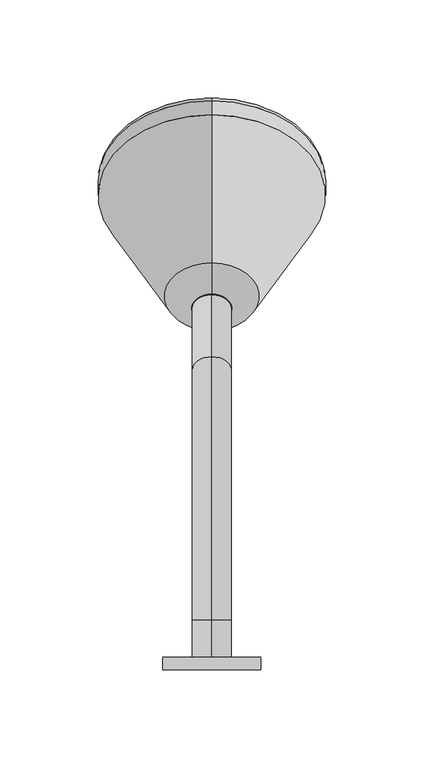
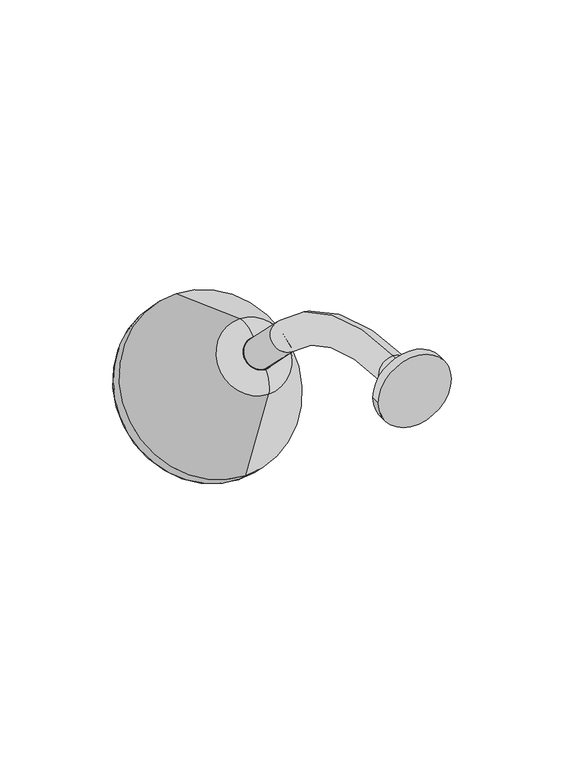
"""IFC4 building model written with IfcOpenShell, lengths in millimetres: flow terminal geometry, Regadera : Accesorios_baño."""

from ifc_helpers import new_model, si_unit, point, frame, frame_2d, origin, place, context, project, spatial, polyline, circle_curve, ellipse_curve, trimmed, segment, composite_curve, outline, extrude, source, transform, mapped, element, save
from ifc_brep_helpers import plane_surface, cylinder_surface, revolved_surface, advanced_brep


def flow_terminal_5f1bfaf6(model_context):
    return source(origin(), model_context, "Body", "SolidModel", [
        extrude(outline(composite_curve([segment(trimmed(circle_curve(frame_2d((1900.0, 125.0)), 25.0), [point((1900.0, 100.0))], [point((1900.0, 150.0))], False, "CARTESIAN"), True, "CONTINUOUS"), segment(trimmed(circle_curve(frame_2d((1900.0, 125.0)), 25.0), [point((1900.0, 150.0))], [point((1900.0, 100.0))], False, "CARTESIAN"), True, "CONTINUOUS")], self_intersect=False)), frame((0.0, 70.0, 0.0), z_axis=(0.0, 1.0, 0.0), x_axis=(0.0, 0.0, 1.0)), (0.0, 0.0, 1.0), 6.4821489),
        advanced_brep(
        [(125.0, 277.6624735, 1826.3331882), (125.0, 243.6668118, 1792.3375265), (125.0, 247.1555994, 1808.0744304), (125.0, 261.9255696, 1822.8444006), (125.0, 353.255056, 1798.8197382), (125.0, 271.1802618, 1716.744944), (125.0, 360.3261238, 1791.7486704), (125.0, 278.2513296, 1709.6738762), (125.0, 360.3261238, 1784.6776026), (125.0, 285.3223974, 1709.6738762), (125.0, 358.6229509, 1782.9744296), (125.0, 287.0255704, 1711.3770491), (125.0, 357.2087373, 1784.3886432), (125.0, 285.6113568, 1712.7912627), (125.0, 321.4100471, 1748.5899529), (125.0, 254.5405845, 1815.4594155)],
        [
            (0, 1, circle_curve(frame((125.0, 260.6646427, 1809.3353573), z_axis=(0.0, -0.7071067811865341, 0.707106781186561), x_axis=(0.0, -0.707106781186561, -0.7071067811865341)), 24.0385629)),
            (1, 2, circle_curve(frame((125.0, 257.7622012, 1797.4678286), z_axis=(-1.0000000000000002, 0.0, 0.0), x_axis=(0.0, 1.0000000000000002, 0.0)), 15.0)),
            (2, 3, circle_curve(frame((125.0, 254.5405845, 1815.4594155), z_axis=(0.0, 0.7071067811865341, -0.707106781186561), x_axis=(0.0, -0.707106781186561, -0.7071067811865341)), 10.4439461)),
            (3, 0, circle_curve(frame((125.0, 272.5321714, 1812.2377988), z_axis=(-1.0000000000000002, 0.0, 0.0), x_axis=(0.0, 0.0, -1.0000000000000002)), 15.0)),
            (1, 0, circle_curve(frame((125.0, 260.6646427, 1809.3353573), z_axis=(0.0, -0.7071067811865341, 0.707106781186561), x_axis=(0.0, -0.707106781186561, -0.7071067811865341)), 24.0385629)),
            (3, 2, circle_curve(frame((125.0, 254.5405845, 1815.4594155), z_axis=(0.0, 0.7071067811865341, -0.707106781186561), x_axis=(0.0, -0.707106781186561, -0.7071067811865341)), 10.4439461)),
            (4, 5, circle_curve(frame((125.0, 312.2176589, 1757.7823411), z_axis=(0.0, -0.7071067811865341, 0.707106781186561), x_axis=(0.0, -0.707106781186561, -0.7071067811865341)), 58.0356436)),
            (5, 1),
            (0, 4),
            (5, 4, circle_curve(frame((125.0, 312.2176589, 1757.7823411), z_axis=(0.0, -0.7071067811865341, 0.707106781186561), x_axis=(0.0, -0.707106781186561, -0.7071067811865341)), 58.0356436)),
            (6, 7, circle_curve(frame((125.0, 319.2887267, 1750.7112733), z_axis=(0.0, -0.7071067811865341, 0.707106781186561), x_axis=(0.0, -0.707106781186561, -0.7071067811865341)), 58.0356436)),
            (7, 5),
            (4, 6),
            (7, 6, circle_curve(frame((125.0, 319.2887267, 1750.7112733), z_axis=(0.0, -0.7071067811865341, 0.707106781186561), x_axis=(0.0, -0.707106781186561, -0.7071067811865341)), 58.0356436)),
            (8, 9, circle_curve(frame((125.0, 322.8242606, 1747.1757394), z_axis=(0.0, -0.7071067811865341, 0.707106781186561), x_axis=(0.0, -0.707106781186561, -0.7071067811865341)), 53.0356436)),
            (9, 7, circle_curve(frame((125.0, 281.7868635, 1713.2094101), z_axis=(-1.0000000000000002, 0.0, 0.0), x_axis=(0.0, 1.0000000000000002, 0.0)), 5.0)),
            (6, 8, circle_curve(frame((125.0, 356.7905899, 1788.2131365), z_axis=(-1.0000000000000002, 0.0, 0.0), x_axis=(0.0, 0.0, -1.0000000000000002)), 5.0)),
            (9, 8, circle_curve(frame((125.0, 322.8242606, 1747.1757394), z_axis=(0.0, -0.7071067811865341, 0.707106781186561), x_axis=(0.0, -0.707106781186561, -0.7071067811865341)), 53.0356436)),
            (10, 11, circle_curve(frame((125.0, 322.8242606, 1747.1757394), z_axis=(0.0, -0.7071067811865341, 0.707106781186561), x_axis=(0.0, -0.707106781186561, -0.7071067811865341)), 50.6269933)),
            (11, 9),
            (8, 10),
            (11, 10, circle_curve(frame((125.0, 322.8242606, 1747.1757394), z_axis=(0.0, -0.7071067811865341, 0.707106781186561), x_axis=(0.0, -0.707106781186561, -0.7071067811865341)), 50.6269933)),
            (12, 13, circle_curve(frame((125.0, 321.4100471, 1748.5899529), z_axis=(0.0, -0.7071067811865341, 0.707106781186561), x_axis=(0.0, -0.707106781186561, -0.7071067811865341)), 50.6269933)),
            (13, 11),
            (10, 12),
            (13, 12, circle_curve(frame((125.0, 321.4100471, 1748.5899529), z_axis=(0.0, -0.7071067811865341, 0.707106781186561), x_axis=(0.0, -0.707106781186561, -0.7071067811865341)), 50.6269933)),
            (14, 13),
            (12, 14),
            (2, 15),
            (15, 3),
        ],
        [
            revolved_surface(trimmed(ellipse_curve(frame((125.0, 257.7622012, 1797.4678286), z_axis=(1.0000000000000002, 0.0, 0.0), x_axis=(0.0, 1.0000000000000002, 0.0)), 15.0, 15.0), [point((125.0, 247.1555994, 1808.0744304))], [point((125.0, 243.6668118, 1792.3375265))], True, "CARTESIAN"), (125.0, 254.5405845, 1815.4594155), (0.0, 0.7071067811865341, -0.707106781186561)),
            revolved_surface(polyline([(125.0, 243.6668118, 1792.3375265), (125.0, 271.1802618, 1716.744944)]), (125.0, 254.5405845, 1815.4594155), (0.0, 0.7071067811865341, -0.707106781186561)),
            cylinder_surface(frame((125.0, 254.5405845, 1815.4594155), z_axis=(0.0, 0.7071067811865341, -0.707106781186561), x_axis=(0.0, -0.707106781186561, -0.7071067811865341)), 58.0356436),
            revolved_surface(trimmed(ellipse_curve(frame((125.0, 281.7868635, 1713.2094101), z_axis=(1.0000000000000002, 0.0, 0.0), x_axis=(0.0, 1.0000000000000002, 0.0)), 5.0, 5.0), [point((125.0, 278.2513296, 1709.6738762))], [point((125.0, 285.3223974, 1709.6738762))], True, "CARTESIAN"), (125.0, 254.5405845, 1815.4594155), (0.0, 0.7071067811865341, -0.707106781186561)),
            plane_surface(frame((125.0, 322.8242606, 1747.1757394), z_axis=(0.0, 0.7071067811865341, -0.707106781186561), x_axis=(0.0, -0.707106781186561, -0.7071067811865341))),
            revolved_surface(polyline([(125.0, 287.02557037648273, 1711.3770490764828), (125.0, 285.61135677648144, 1712.7912626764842)]), (125.0, 254.5405845, 1815.4594155), (0.0, 0.7071067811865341, -0.707106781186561)),
            plane_surface(frame((125.0, 321.4100471, 1748.5899529), z_axis=(0.0, 0.7071067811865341, -0.707106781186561), x_axis=(0.0, -0.707106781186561, -0.7071067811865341))),
            plane_surface(frame((125.0, 254.5405845, 1815.4594155), z_axis=(0.0, -0.7071067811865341, 0.707106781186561), x_axis=(0.0, -0.707106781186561, -0.7071067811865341))),
        ],
        [
            (0, [[1, 2, 3, 4]]),
            (0, [[5, -4, 6, -2]]),
            (1, [[7, 8, -1, 9]]),
            (1, [[10, -9, -5, -8]]),
            (2, [[11, 12, -7, 13]]),
            (2, [[14, -13, -10, -12]]),
            (3, [[15, 16, -11, 17]]),
            (3, [[18, -17, -14, -16]]),
            (4, [[19, 20, -15, 21]]),
            (4, [[22, -21, -18, -20]]),
            (5, [[23, 24, -19, 25]]),
            (5, [[26, -25, -22, -24]]),
            (6, [[27, -23, 28]]),
            (6, [[-28, -26, -27]]),
            (7, [[-3, 29, 30]]),
            (7, [[-6, -30, -29]]),
        ],
    ),
        advanced_brep(
        [(125.0, 76.4821489, 1890.0), (125.0, 76.4821489, 1910.0), (125.0, 95.4415588, 1890.0), (125.0, 95.4415588, 1910.0), (125.0, 229.7918472, 1854.3502884), (125.0, 215.6497116, 1840.2081528), (125.0, 247.4695167, 1808.3883476), (125.0, 261.6116524, 1822.5304833)],
        [
            (0, 1, circle_curve(frame((125.0, 76.4821489, 1900.0), z_axis=(0.0, -1.0, 0.0), x_axis=(0.0, 0.0, 1.0)), 10.0)),
            (1, 0, circle_curve(frame((125.0, 76.4821489, 1900.0), z_axis=(0.0, -1.0, 0.0), x_axis=(0.0, 0.0, 1.0)), 10.0)),
            (0, 2),
            (2, 3, circle_curve(frame((125.0, 95.4415588, 1900.0), z_axis=(0.0, -1.0, 0.0), x_axis=(0.0, 0.0, 1.0)), 10.0)),
            (3, 1),
            (3, 2, circle_curve(frame((125.0, 95.4415588, 1900.0), z_axis=(0.0, -1.0, 0.0), x_axis=(0.0, 0.0, 1.0)), 10.0)),
            (4, 3, circle_curve(frame((125.0, 95.4415588, 1720.0), z_axis=(1.0, 0.0, 0.0), x_axis=(0.0, 0.0, 1.0)), 190.0)),
            (2, 5, circle_curve(frame((125.0, 95.4415588, 1720.0), z_axis=(-1.0, 0.0, 0.0), x_axis=(0.0, 0.0, 1.0)), 170.0)),
            (5, 4, circle_curve(frame((125.0, 222.7207794, 1847.2792206), z_axis=(0.0, -0.7071067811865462, 0.7071067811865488), x_axis=(0.0, 0.7071067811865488, 0.7071067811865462)), 10.0)),
            (4, 5, circle_curve(frame((125.0, 222.7207794, 1847.2792206), z_axis=(0.0, -0.7071067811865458, 0.7071067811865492), x_axis=(0.0, 0.7071067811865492, 0.7071067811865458)), 10.0)),
            (6, 7, circle_curve(frame((125.0, 254.5405845, 1815.4594155), z_axis=(0.0, 0.7071067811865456, -0.7071067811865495), x_axis=(0.0, 0.7071067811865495, 0.7071067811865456)), 10.0)),
            (7, 6, circle_curve(frame((125.0, 254.5405845, 1815.4594155), z_axis=(0.0, 0.7071067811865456, -0.7071067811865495), x_axis=(0.0, 0.7071067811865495, 0.7071067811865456)), 10.0)),
            (5, 6),
            (7, 4),
        ],
        [
            plane_surface(frame((125.0, 76.4821489, 1900.0), z_axis=(0.0, -1.0, 0.0), x_axis=(1.0, 0.0, 0.0))),
            cylinder_surface(frame((125.0, 76.4821489, 1900.0), z_axis=(0.0, -1.0, 0.0), x_axis=(0.0, 0.0, 1.0)), 10.0),
            revolved_surface(trimmed(ellipse_curve(frame((125.0, 95.4415588, 1900.0), z_axis=(0.0, -1.0, 0.0), x_axis=(0.0, 0.0, 1.0)), 10.0, 10.0), [point((125.0, 95.4415588, 1890.0))], [point((125.0, 95.4415588, 1910.0))], True, "CARTESIAN"), (125.0, 95.4415588, 1720.0), (-1.0, 0.0, 0.0)),
            revolved_surface(trimmed(ellipse_curve(frame((125.0, 95.4415588, 1900.0), z_axis=(0.0, -1.0, 0.0), x_axis=(0.0, 0.0, 1.0)), 10.0, 10.0), [point((125.0, 95.4415588, 1910.0))], [point((125.0, 95.4415588, 1890.0))], True, "CARTESIAN"), (125.0, 95.4415588, 1720.0), (-1.0, 0.0, 0.0)),
            plane_surface(frame((125.0, 254.5405845, 1815.4594155), z_axis=(0.0, 0.7071067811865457, -0.7071067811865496), x_axis=(1.0, 0.0, 0.0))),
            cylinder_surface(frame((125.0, 222.7207794, 1847.2792206), z_axis=(0.0, -0.7071067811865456, 0.7071067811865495), x_axis=(0.0, 0.7071067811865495, 0.7071067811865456)), 10.0),
        ],
        [
            (0, [[1, 2]]),
            (1, [[-1, 3, 4, 5]]),
            (1, [[-2, -5, 6, -3]]),
            (2, [[7, -4, 8, 9]]),
            (3, [[-8, -6, -7, 10]]),
            (4, [[11, 12]]),
            (5, [[-9, 13, -12, 14]]),
            (5, [[-10, -14, -11, -13]]),
        ],
    ),
    ])


if __name__ == "__main__":
    model = new_model("IFC4")
    model_context = context("Model", 3, world=origin())
    ifc_project = project(units=[si_unit("LENGTHUNIT", "METRE", prefix="MILLI")], contexts=[model_context])
    site = spatial("IfcSite", under=ifc_project)
    building = spatial("IfcBuilding", under=site)
    placement = place(None, origin())
    flow_terminal_shape = flow_terminal_5f1bfaf6(model_context)
    element("IfcFlowTerminal", 1, ObjectType="Regadera : Accesorios_baño", at=placement, inside=building, context=model_context, shape_type="MappedRepresentation", body=[
        mapped(flow_terminal_shape, transform((0.0, 0.0, 0.0), x_axis=(1.0, 0.0, 0.0), y_axis=(0.0, 1.0, 0.0), z_axis=(0.0, 0.0, 1.0))),
    ])
    save(model, "model.ifc")
